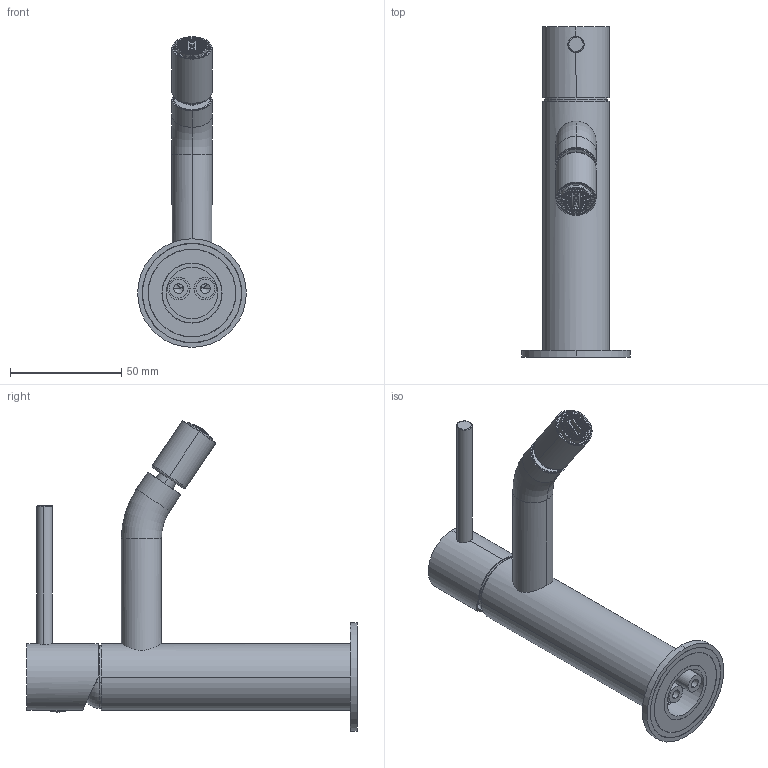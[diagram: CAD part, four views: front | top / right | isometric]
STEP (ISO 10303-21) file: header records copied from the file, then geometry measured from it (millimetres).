
FILE_DESCRIPTION((''),'2;1');
FILE_NAME('6908021_SW0001','2026-10-14T10:40:36',('carloff'),(''),'CREO PARAMETRIC BY PTC INC, 2025443','CREO PARAMETRIC BY PTC INC, 2025443','');
FILE_SCHEMA(('CONFIG_CONTROL_DESIGN'));
Length unit declared in the file: millimetre
Products named in the file (1): 6908021_SW0001
Bounding box: 48.8 x 148.5 x 139.65 mm (x, y, z)
Volume: 78766.8 mm3; surface area: 61368.7 mm2
Topology: 4 solids, 6 shells, 3392 faces, 10004 edges, 6607 vertices
Faces by surface type: plane 1976, cylinder 600, torus 482, bspline 168, cone 105, sphere 46, extrusion 15
Entity records: 152532 total; most frequent: CARTESIAN_POINT 67714, ORIENTED_EDGE 19912, DIRECTION 14750, EDGE_CURVE 9956, VERTEX_POINT 6607, AXIS2_PLACEMENT_3D 5502, B_SPLINE_CURVE_WITH_KNOTS 3947, EDGE_LOOP 3791
